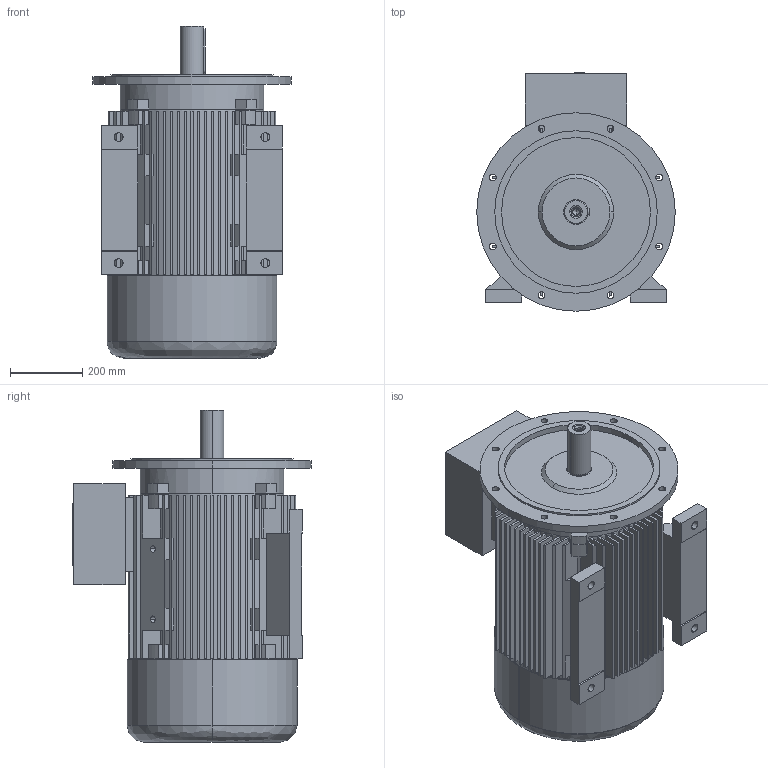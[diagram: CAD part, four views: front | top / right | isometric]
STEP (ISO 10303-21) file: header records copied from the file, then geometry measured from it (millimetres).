
FILE_DESCRIPTION (( 'STEP AP203' ), '1' );
FILE_NAME ('20.17510_C 7AT 250M - 4, -6,-8 B35 Exde STANDK.STEP', '2018-05-21T07:19:20', ( '' ), ( '' ), 'SwSTEP 2.0', 'SolidWorks 2017', '' );
FILE_SCHEMA (( 'CONFIG_CONTROL_DESIGN' ));
Length unit declared in the file: millimetre
Products named in the file (1): 20.17510_C 7AT 250M - 4, -6,-8 B35 Exde STANDK
Bounding box: 550 x 661 x 920 mm (x, y, z)
Volume: 51013908.4 mm3; surface area: 6463653.5 mm2
Topology: 9 solids, 9 shells, 835 faces, 2227 edges, 1465 vertices
Faces by surface type: plane 648, cylinder 140, cone 34, bspline 13
Entity records: 26593 total; most frequent: CARTESIAN_POINT 5331, ORIENTED_EDGE 4418, DIRECTION 4353, EDGE_CURVE 2209, LINE 1643, VECTOR 1643, VERTEX_POINT 1465, AXIS2_PLACEMENT_3D 1355
